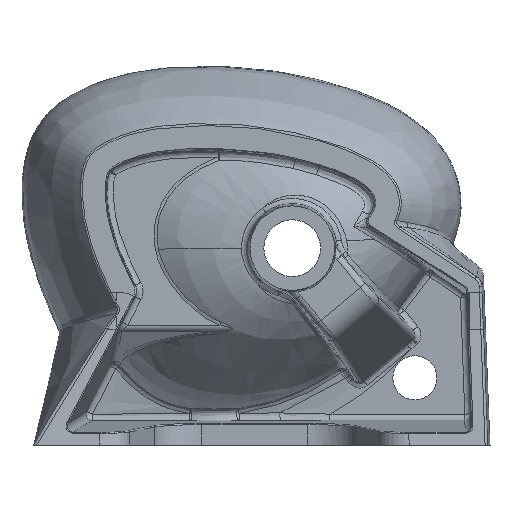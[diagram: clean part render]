
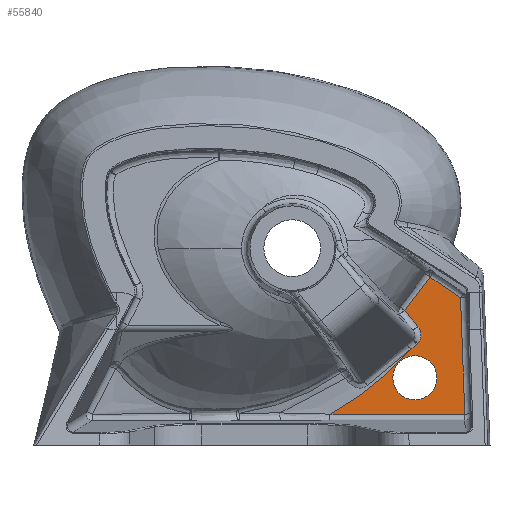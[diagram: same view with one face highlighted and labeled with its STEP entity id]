
A CAD part, front view. The second image highlights one B-rep face of the part: STEP entity #55840.
In plain terms, the highlighted planar face has unit normal (0, -1, 0).
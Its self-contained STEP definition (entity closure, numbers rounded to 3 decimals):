
#1548 = B_SPLINE_CURVE_WITH_KNOTS ( 'NONE', 3,
 ( #7522, #68606, #51303, #35426, #18342, #35663 ),
 .UNSPECIFIED., .F., .F.,
 ( 4, 2, 4 ),
 ( 0., 0.017, 0.033 ),
 .UNSPECIFIED. ) ;
#2364 = CARTESIAN_POINT ( 'NONE',  ( 123.74, -4., -70.052 ) ) ;
#3580 = DIRECTION ( 'NONE',  ( 0., 0., 1. ) ) ;
#3740 =( BOUNDED_CURVE ( )  B_SPLINE_CURVE ( 3, ( #30002, #68472, #41308, #2364 ),
 .UNSPECIFIED., .F., .F. ) 
 B_SPLINE_CURVE_WITH_KNOTS ( ( 4, 4 ),
 ( 0., 0.118 ),
 .UNSPECIFIED. ) 
 CURVE ( )  GEOMETRIC_REPRESENTATION_ITEM ( )  RATIONAL_B_SPLINE_CURVE ( ( 1., 0.999, 0.999, 1. ) ) 
 REPRESENTATION_ITEM ( '' )  );
#4020 = EDGE_LOOP ( 'NONE', ( #30092, #64368, #41628, #17577, #59969, #68526, #19974, #23538, #17999 ) ) ;
#4856 = EDGE_CURVE ( 'NONE', #30510, #55223, #3740, .T. ) ;
#4964 = AXIS2_PLACEMENT_3D ( 'NONE', #20612, #25897, #3580 ) ;
#5626 = DIRECTION ( 'NONE',  ( 0., 1., 0. ) ) ;
#5747 = VERTEX_POINT ( 'NONE', #16894 ) ;
#7522 = CARTESIAN_POINT ( 'NONE',  ( 134.247, -4., -16.734 ) ) ;
#9328 = FACE_BOUND ( 'NONE', #24759, .T. ) ;
#9892 = EDGE_CURVE ( 'NONE', #55456, #18384, #1548, .T. ) ;
#10164 = VERTEX_POINT ( 'NONE', #41428 ) ;
#10901 = CARTESIAN_POINT ( 'NONE',  ( 122.36, -4., -96.6 ) ) ;
#11391 = CARTESIAN_POINT ( 'NONE',  ( 154.535, -4., -30.346 ) ) ;
#11601 =( BOUNDED_CURVE ( )  B_SPLINE_CURVE ( 3, ( #22189, #22912, #61410, #28457 ),
 .UNSPECIFIED., .F., .T. ) 
 B_SPLINE_CURVE_WITH_KNOTS ( ( 4, 4 ),
 ( 4.84, 6.283 ),
 .UNSPECIFIED. ) 
 CURVE ( )  GEOMETRIC_REPRESENTATION_ITEM ( )  RATIONAL_B_SPLINE_CURVE ( ( 1., 0.834, 0.834, 1. ) ) 
 REPRESENTATION_ITEM ( '' )  );
#11958 = FACE_OUTER_BOUND ( 'NONE', #4020, .T. ) ;
#12267 = PLANE ( 'NONE',  #62349 ) ;
#12567 = EDGE_CURVE ( 'NONE', #55223, #5747, #34568, .T. ) ;
#13185 = DIRECTION ( 'NONE',  ( -0.037, 0., 0.999 ) ) ;
#14328 = CARTESIAN_POINT ( 'NONE',  ( 119.045, -4., -73.994 ) ) ;
#16894 = CARTESIAN_POINT ( 'NONE',  ( 119.045, -4., -73.994 ) ) ;
#17421 = CARTESIAN_POINT ( 'NONE',  ( 142.425, -4., -22.087 ) ) ;
#17577 = ORIENTED_EDGE ( 'NONE', *, *, #22548, .T. ) ;
#17999 = ORIENTED_EDGE ( 'NONE', *, *, #24598, .T. ) ;
#18342 = CARTESIAN_POINT ( 'NONE',  ( 117.614, -4., -38.881 ) ) ;
#18384 = VERTEX_POINT ( 'NONE', #59539 ) ;
#19405 = AXIS2_PLACEMENT_3D ( 'NONE', #10901, #5626, #65964 ) ;
#19871 = CARTESIAN_POINT ( 'NONE',  ( 109.853, -4., -84.066 ) ) ;
#19974 = ORIENTED_EDGE ( 'NONE', *, *, #63811, .T. ) ;
#20612 = CARTESIAN_POINT ( 'NONE',  ( 122.36, -4., -96.6 ) ) ;
#21930 = CARTESIAN_POINT ( 'NONE',  ( 124.596, -4., -69.238 ) ) ;
#22189 = CARTESIAN_POINT ( 'NONE',  ( 124.712, -4., -55.796 ) ) ;
#22212 = CARTESIAN_POINT ( 'NONE',  ( 130.07, -4., -62.178 ) ) ;
#22548 = EDGE_CURVE ( 'NONE', #5747, #64392, #47647, .T. ) ;
#22912 = CARTESIAN_POINT ( 'NONE',  ( 128.24, -4., -59.999 ) ) ;
#23538 = ORIENTED_EDGE ( 'NONE', *, *, #9892, .T. ) ;
#24598 = EDGE_CURVE ( 'NONE', #18384, #35017, #62805, .T. ) ;
#24759 = EDGE_LOOP ( 'NONE', ( #63169, #45186 ) ) ;
#25611 = CARTESIAN_POINT ( 'NONE',  ( 78.535, -4., -110.739 ) ) ;
#25897 = DIRECTION ( 'NONE',  ( 0., 1., 0. ) ) ;
#27047 = CARTESIAN_POINT ( 'NONE',  ( 161.877, -4., -125.31 ) ) ;
#28457 = CARTESIAN_POINT ( 'NONE',  ( 124.596, -4., -69.238 ) ) ;
#29007 = CARTESIAN_POINT ( 'NONE',  ( 122.36, -4., -79.1 ) ) ;
#29169 = CIRCLE ( 'NONE', #19405, 17.5 ) ;
#30002 = CARTESIAN_POINT ( 'NONE',  ( 124.596, -4., -69.238 ) ) ;
#30092 = ORIENTED_EDGE ( 'NONE', *, *, #46073, .T. ) ;
#30510 = VERTEX_POINT ( 'NONE', #21930 ) ;
#31717 = VECTOR ( 'NONE', #46102, 1000. ) ;
#33434 = LINE ( 'NONE', #51646, #31717 ) ;
#33769 = CARTESIAN_POINT ( 'NONE',  ( 158.502, -4., -33.203 ) ) ;
#34568 = LINE ( 'NONE', #54591, #48285 ) ;
#35017 = VERTEX_POINT ( 'NONE', #39749 ) ;
#35426 = CARTESIAN_POINT ( 'NONE',  ( 121.07, -4., -34.55 ) ) ;
#35663 = CARTESIAN_POINT ( 'NONE',  ( 114.127, -4., -43.189 ) ) ;
#36790 = CARTESIAN_POINT ( 'NONE',  ( 55.131, -4., -125.31 ) ) ;
#36881 = CIRCLE ( 'NONE', #4964, 17.5 ) ;
#37853 = CARTESIAN_POINT ( 'NONE',  ( 55.131, -4., -125.31 ) ) ;
#38337 = DIRECTION ( 'NONE',  ( 0.643, 0., -0.766 ) ) ;
#38451 = DIRECTION ( 'NONE',  ( -0.766, 0., -0.643 ) ) ;
#38984 = EDGE_CURVE ( 'NONE', #57210, #66822, #61907, .T. ) ;
#39628 = CARTESIAN_POINT ( 'NONE',  ( 134.247, -4., -16.734 ) ) ;
#39749 = CARTESIAN_POINT ( 'NONE',  ( 124.712, -4., -55.796 ) ) ;
#39782 = CARTESIAN_POINT ( 'NONE',  ( 150.519, -4., -27.563 ) ) ;
#40258 = CARTESIAN_POINT ( 'NONE',  ( 158.502, -4., -33.203 ) ) ;
#41303 = CARTESIAN_POINT ( 'NONE',  ( 67.089, -4., -118.415 ) ) ;
#41308 = CARTESIAN_POINT ( 'NONE',  ( 124.042, -4., -69.799 ) ) ;
#41428 = CARTESIAN_POINT ( 'NONE',  ( 122.36, -4., -114.1 ) ) ;
#41628 = ORIENTED_EDGE ( 'NONE', *, *, #12567, .T. ) ;
#44693 = CARTESIAN_POINT ( 'NONE',  ( 158.405, -4., -30.555 ) ) ;
#45186 = ORIENTED_EDGE ( 'NONE', *, *, #66531, .T. ) ;
#46073 = EDGE_CURVE ( 'NONE', #35017, #30510, #11601, .T. ) ;
#46102 = DIRECTION ( 'NONE',  ( 1., 0., 0. ) ) ;
#47284 = VECTOR ( 'NONE', #13185, 1000. ) ;
#47647 = B_SPLINE_CURVE_WITH_KNOTS ( 'NONE', 3,
 ( #14328, #63628, #19871, #52605, #58360, #63858, #69397, #25611, #64082, #41303, #70802, #37853 ),
 .UNSPECIFIED., .F., .F.,
 ( 4, 2, 2, 2, 2, 4 ),
 ( 0.061, 0.082, 0.102, 0.113, 0.123, 0.144 ),
 .UNSPECIFIED. ) ;
#48285 = VECTOR ( 'NONE', #38451, 1000. ) ;
#49891 = CARTESIAN_POINT ( 'NONE',  ( 138.346, -4., -19.395 ) ) ;
#50286 = DIRECTION ( 'NONE',  ( 0., 1., 0. ) ) ;
#51303 = CARTESIAN_POINT ( 'NONE',  ( 127.811, -4., -25.758 ) ) ;
#51646 = CARTESIAN_POINT ( 'NONE',  ( 126.002, -4., -125.31 ) ) ;
#52605 = CARTESIAN_POINT ( 'NONE',  ( 100.04, -4., -93.558 ) ) ;
#53627 = CARTESIAN_POINT ( 'NONE',  ( 123.74, -4., -70.052 ) ) ;
#54591 = CARTESIAN_POINT ( 'NONE',  ( 143.933, -4., -53.1 ) ) ;
#55223 = VERTEX_POINT ( 'NONE', #53627 ) ;
#55456 = VERTEX_POINT ( 'NONE', #39628 ) ;
#55840 = ADVANCED_FACE ( 'NONE', ( #11958, #9328 ), #12267, .F. ) ;
#57210 = VERTEX_POINT ( 'NONE', #27047 ) ;
#58360 = CARTESIAN_POINT ( 'NONE',  ( 94.916, -4., -98.102 ) ) ;
#59539 = CARTESIAN_POINT ( 'NONE',  ( 114.127, -4., -43.189 ) ) ;
#59969 = ORIENTED_EDGE ( 'NONE', *, *, #70264, .T. ) ;
#61189 = CARTESIAN_POINT ( 'NONE',  ( 134.247, -4., -16.734 ) ) ;
#61410 = CARTESIAN_POINT ( 'NONE',  ( 128.194, -4., -65.373 ) ) ;
#61545 = EDGE_CURVE ( 'NONE', #62566, #10164, #36881, .T. ) ;
#61811 = CARTESIAN_POINT ( 'NONE',  ( 126.002, -4., -31.742 ) ) ;
#61907 = LINE ( 'NONE', #44693, #47284 ) ;
#62349 = AXIS2_PLACEMENT_3D ( 'NONE', #61811, #50286, #66855 ) ;
#62566 = VERTEX_POINT ( 'NONE', #29007 ) ;
#62692 = B_SPLINE_CURVE_WITH_KNOTS ( 'NONE', 3,
 ( #33769, #11391, #39782, #17421, #49891, #61189 ),
 .UNSPECIFIED., .F., .F.,
 ( 4, 2, 4 ),
 ( 0., 0.015, 0.029 ),
 .UNSPECIFIED. ) ;
#62805 = LINE ( 'NONE', #22212, #66209 ) ;
#63169 = ORIENTED_EDGE ( 'NONE', *, *, #61545, .T. ) ;
#63628 = CARTESIAN_POINT ( 'NONE',  ( 114.545, -4., -79.119 ) ) ;
#63811 = EDGE_CURVE ( 'NONE', #66822, #55456, #62692, .T. ) ;
#63858 = CARTESIAN_POINT ( 'NONE',  ( 86.86, -4., -104.574 ) ) ;
#64082 = CARTESIAN_POINT ( 'NONE',  ( 75.704, -4., -112.705 ) ) ;
#64368 = ORIENTED_EDGE ( 'NONE', *, *, #4856, .T. ) ;
#64392 = VERTEX_POINT ( 'NONE', #36790 ) ;
#65964 = DIRECTION ( 'NONE',  ( 0., 0., 1. ) ) ;
#66209 = VECTOR ( 'NONE', #38337, 1000. ) ;
#66531 = EDGE_CURVE ( 'NONE', #10164, #62566, #29169, .T. ) ;
#66822 = VERTEX_POINT ( 'NONE', #40258 ) ;
#66855 = DIRECTION ( 'NONE',  ( 0., 0., 1. ) ) ;
#68472 = CARTESIAN_POINT ( 'NONE',  ( 124.328, -4., -69.527 ) ) ;
#68526 = ORIENTED_EDGE ( 'NONE', *, *, #38984, .T. ) ;
#68606 = CARTESIAN_POINT ( 'NONE',  ( 131.1, -4., -21.3 ) ) ;
#69397 = CARTESIAN_POINT ( 'NONE',  ( 84.111, -4., -106.676 ) ) ;
#70264 = EDGE_CURVE ( 'NONE', #64392, #57210, #33434, .T. ) ;
#70802 = CARTESIAN_POINT ( 'NONE',  ( 61.18, -4., -121.974 ) ) ;
